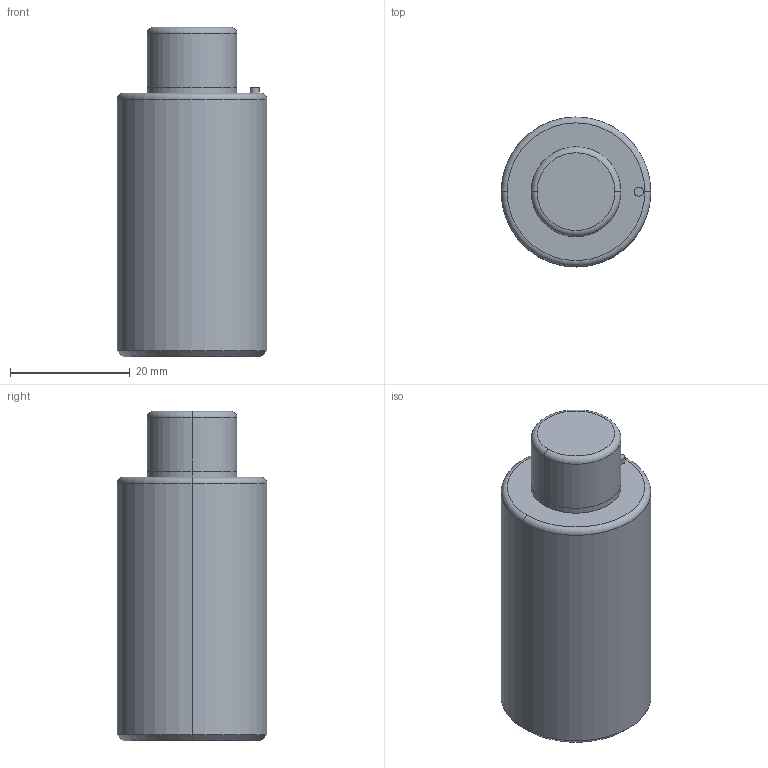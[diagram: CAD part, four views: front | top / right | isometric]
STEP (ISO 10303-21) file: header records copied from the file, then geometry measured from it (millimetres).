
FILE_DESCRIPTION(/* description */ (''),/* implementation_level */ '2;1');
FILE_NAME(/* name */ '3d_mgsc25-10_04570_r00.stp',/* time_stamp */ '2011-01-10T14:13:35+09:00',/* author */ ('MISUMI'),/* organization */ (''),/* preprocessor_version */ 'ST-DEVELOPER v11',/* originating_system */ 'UGS - NX 5.0',/* authorisation */ '');
FILE_SCHEMA (('CONFIG_CONTROL_DESIGN'));
Length unit declared in the file: millimetre
Products named in the file (1): 3d_mgsc25-10_04570_r00
Bounding box: 25 x 25 x 55 mm (x, y, z)
Volume: 23152.1 mm3; surface area: 5070.2 mm2
Topology: 1 solids, 1 shells, 24 faces, 48 edges, 27 vertices
Faces by surface type: cylinder 12, plane 4, torus 4, cone 4
Entity records: 698 total; most frequent: DIRECTION 126, CARTESIAN_POINT 98, ORIENTED_EDGE 92, AXIS2_PLACEMENT_3D 55, EDGE_CURVE 46, CIRCLE 30, EDGE_LOOP 27, VERTEX_POINT 27
